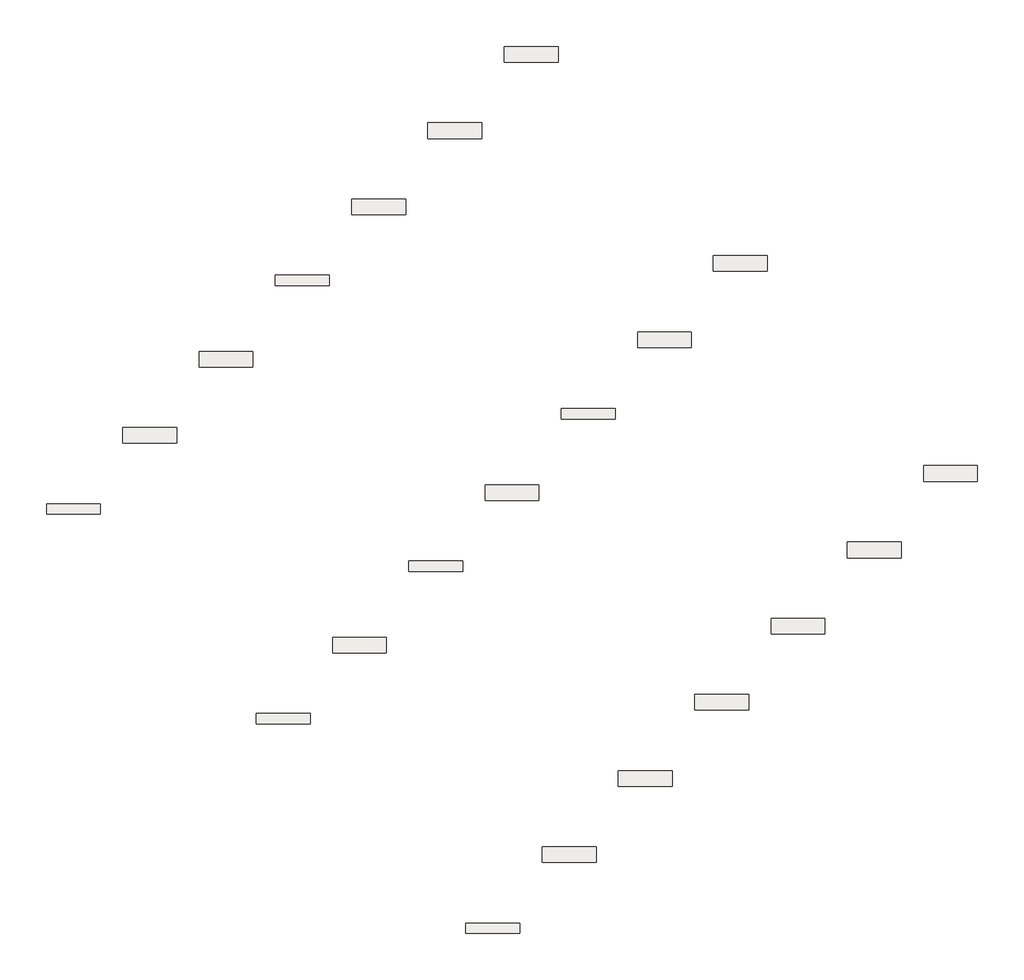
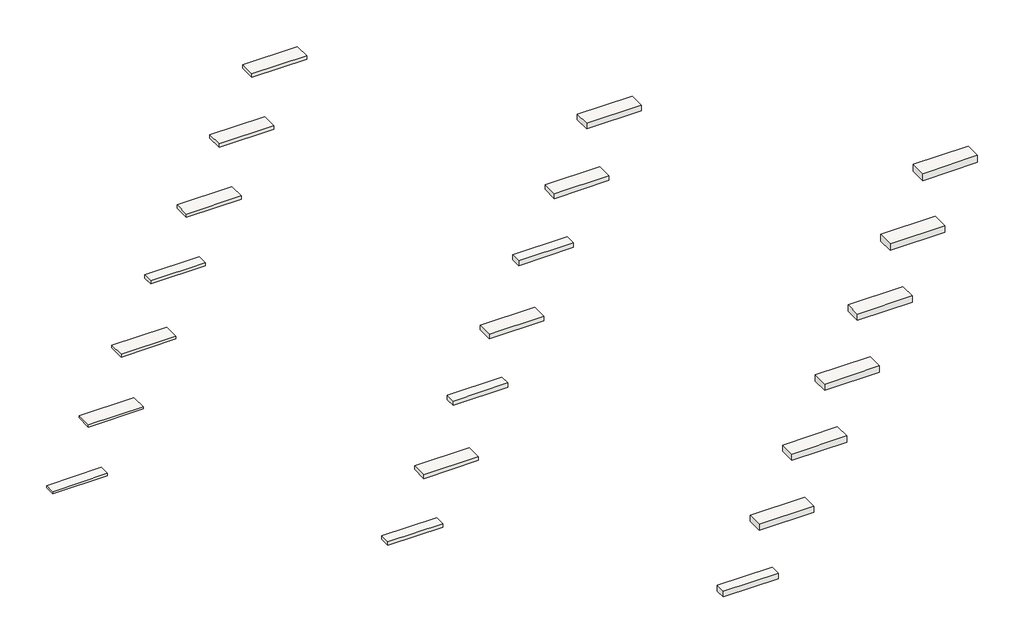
# One storey: 21 roofs.
"""IFC4 building model written with IfcOpenShell, lengths in millimetres."""

from ifc_helpers import new_model, si_unit, frame, origin, place, context, project, spatial, polyline, outline, extrude, element, save

model = new_model("IFC4")

# Units and contexts
model_context = context("Model", 3, world=origin())
ifc_project = project(units=[si_unit("LENGTHUNIT", "METRE", prefix="MILLI")], contexts=[model_context])

# Site, building, storey
site = spatial("IfcSite", under=ifc_project)
building = spatial("IfcBuilding", under=site)
storey = spatial("IfcBuildingStorey", under=building, Name="Lengte", Elevation=2500.0)

# Roofs
placement = place(None, origin())
element("IfcRoof", 1, ObjectType="NLRS_27_RO_Naturoll 035_90x380x7600mm", at=placement, inside=storey, context=model_context, shape_type="SweptSolid", body=[
    extrude(outline(polyline([(-4546.9892792, 4446.9143781), (-2546.9892792, 4446.9143781), (-2546.9892792, 4066.9143781), (-4546.9892792, 4066.9143781), (-4546.9892792, 4446.9143781)])), frame((0.0, 0.0, 2500.0), z_axis=(0.0, 0.0, 1.0), x_axis=(1.0, 0.0, 0.0)), (0.0, 0.0, 1.0), 90.0),
])
element("IfcRoof", 2, ObjectType="NLRS_27_RO_Naturoll 035_90x580x7600mm", at=placement, inside=storey, context=model_context, shape_type="SweptSolid", body=[
    extrude(outline(polyline([(-1718.5621545, 7275.3415029), (281.4378455, 7275.3415029), (281.4378455, 6695.3415029), (-1718.5621545, 6695.3415029), (-1718.5621545, 7275.3415029)])), frame((0.0, 0.0, 2500.0), z_axis=(0.0, 0.0, 1.0), x_axis=(1.0, 0.0, 0.0)), (0.0, 0.0, 1.0), 90.0),
])
element("IfcRoof", 3, ObjectType="NLRS_27_RO_Naturoll 035_100x580x7400mm", at=placement, inside=storey, context=model_context, shape_type="SweptSolid", body=[
    extrude(outline(polyline([(1109.8649703, 10103.7686276), (3109.8649703, 10103.7686276), (3109.8649703, 9523.7686276), (1109.8649703, 9523.7686276), (1109.8649703, 10103.7686276)])), frame((0.0, 0.0, 2500.0), z_axis=(0.0, 0.0, 1.0), x_axis=(1.0, 0.0, 0.0)), (0.0, 0.0, 1.0), 100.0),
])
element("IfcRoof", 4, ObjectType="NLRS_27_RO_Naturoll 035_120x380x6200mm", at=placement, inside=storey, context=model_context, shape_type="SweptSolid", body=[
    extrude(outline(polyline([(3938.292095, 12932.1957524), (5938.292095, 12932.1957524), (5938.292095, 12552.1957524), (3938.292095, 12552.1957524), (3938.292095, 12932.1957524)])), frame((0.0, 0.0, 2500.0), z_axis=(0.0, 0.0, 1.0), x_axis=(1.0, 0.0, 0.0)), (0.0, 0.0, 1.0), 120.0),
])
element("IfcRoof", 5, ObjectType="NLRS_27_RO_Naturoll 035_120x580x6200mm", at=placement, inside=storey, context=model_context, shape_type="SweptSolid", body=[
    extrude(outline(polyline([(6766.7192198, 15760.6228771), (8766.7192198, 15760.6228771), (8766.7192198, 15180.6228771), (6766.7192198, 15180.6228771), (6766.7192198, 15760.6228771)])), frame((0.0, 0.0, 2500.0), z_axis=(0.0, 0.0, 1.0), x_axis=(1.0, 0.0, 0.0)), (0.0, 0.0, 1.0), 120.0),
])
element("IfcRoof", 6, ObjectType="NLRS_27_RO_Naturoll 035_130x590x5500mm", at=placement, inside=storey, context=model_context, shape_type="SweptSolid", body=[
    extrude(outline(polyline([(9595.1463445, 18589.0500019), (11595.1463445, 18589.0500019), (11595.1463445, 17999.0500019), (9595.1463445, 17999.0500019), (9595.1463445, 18589.0500019)])), frame((0.0, 0.0, 2500.0), z_axis=(0.0, 0.0, 1.0), x_axis=(1.0, 0.0, 0.0)), (0.0, 0.0, 1.0), 130.0),
])
element("IfcRoof", 7, ObjectType="NLRS_27_RO_Naturoll 035_140x380x5300mm", at=placement, inside=storey, context=model_context, shape_type="SweptSolid", body=[
    extrude(outline(polyline([(3230.8651346, -3331.5803941), (5230.8651346, -3331.5803941), (5230.8651346, -3711.5803941), (3230.8651346, -3711.5803941), (3230.8651346, -3331.5803941)])), frame((0.0, 0.0, 2500.0), z_axis=(0.0, 0.0, 1.0), x_axis=(1.0, 0.0, 0.0)), (0.0, 0.0, 1.0), 140.0),
])
element("IfcRoof", 8, ObjectType="NLRS_27_RO_Naturoll 035_140x580x5300mm", at=placement, inside=storey, context=model_context, shape_type="SweptSolid", body=[
    extrude(outline(polyline([(6059.2922594, -503.1532694), (8059.2922594, -503.1532694), (8059.2922594, -1083.1532694), (6059.2922594, -1083.1532694), (6059.2922594, -503.1532694)])), frame((0.0, 0.0, 2500.0), z_axis=(0.0, 0.0, 1.0), x_axis=(1.0, 0.0, 0.0)), (0.0, 0.0, 1.0), 140.0),
])
element("IfcRoof", 9, ObjectType="NLRS_27_RO_Naturoll 035_170x380x4350mm", at=placement, inside=storey, context=model_context, shape_type="SweptSolid", body=[
    extrude(outline(polyline([(8887.7193841, 2325.2738554), (10887.7193841, 2325.2738554), (10887.7193841, 1945.2738554), (8887.7193841, 1945.2738554), (8887.7193841, 2325.2738554)])), frame((0.0, 0.0, 2500.0), z_axis=(0.0, 0.0, 1.0), x_axis=(1.0, 0.0, 0.0)), (0.0, 0.0, 1.0), 170.0),
])
element("IfcRoof", 10, ObjectType="NLRS_27_RO_Naturoll 035_170x580x4350mm", at=placement, inside=storey, context=model_context, shape_type="SweptSolid", body=[
    extrude(outline(polyline([(11716.1465089, 5153.7009801), (13716.1465089, 5153.7009801), (13716.1465089, 4573.7009801), (11716.1465089, 4573.7009801), (11716.1465089, 5153.7009801)])), frame((0.0, 0.0, 2500.0), z_axis=(0.0, 0.0, 1.0), x_axis=(1.0, 0.0, 0.0)), (0.0, 0.0, 1.0), 170.0),
])
element("IfcRoof", 11, ObjectType="NLRS_27_RO_Naturoll 035_185x380x4000mm", at=placement, inside=storey, context=model_context, shape_type="SweptSolid", body=[
    extrude(outline(polyline([(14544.5736336, 7982.1281049), (16544.5736336, 7982.1281049), (16544.5736336, 7602.1281049), (14544.5736336, 7602.1281049), (14544.5736336, 7982.1281049)])), frame((0.0, 0.0, 2500.0), z_axis=(0.0, 0.0, 1.0), x_axis=(1.0, 0.0, 0.0)), (0.0, 0.0, 1.0), 185.0),
])
element("IfcRoof", 12, ObjectType="NLRS_27_RO_Naturoll 035_200x580x3700mm", at=placement, inside=storey, context=model_context, shape_type="SweptSolid", body=[
    extrude(outline(polyline([(20189.3006542, 13657.6741056), (22189.3006542, 13657.6741056), (22189.3006542, 13077.6741056), (20189.3006542, 13077.6741056), (20189.3006542, 13657.6741056)])), frame((0.0, 0.0, 2500.0), z_axis=(0.0, 0.0, 1.0), x_axis=(1.0, 0.0, 0.0)), (0.0, 0.0, 1.0), 200.0),
])
element("IfcRoof", 13, ObjectType="NLRS_27_RO_Naturoll 035_220x380x3400mm", at=placement, inside=storey, context=model_context, shape_type="SweptSolid", body=[
    extrude(outline(polyline([(11009.0397277, -11109.7549872), (13009.0397277, -11109.7549872), (13009.0397277, -11489.7549872), (11009.0397277, -11489.7549872), (11009.0397277, -11109.7549872)])), frame((0.0, 0.0, 2500.0), z_axis=(0.0, 0.0, 1.0), x_axis=(1.0, 0.0, 0.0)), (0.0, 0.0, 1.0), 220.0),
])
element("IfcRoof", 14, ObjectType="NLRS_27_RO_Naturoll 035_220x580x3400mm", at=placement, inside=storey, context=model_context, shape_type="SweptSolid", body=[
    extrude(outline(polyline([(13837.4668524, -8281.3278624), (15837.4668524, -8281.3278624), (15837.4668524, -8861.3278624), (13837.4668524, -8861.3278624), (13837.4668524, -8281.3278624)])), frame((0.0, 0.0, 2500.0), z_axis=(0.0, 0.0, 1.0), x_axis=(1.0, 0.0, 0.0)), (0.0, 0.0, 1.0), 220.0),
])
element("IfcRoof", 15, ObjectType="NLRS_27_RO_Naturoll 035_235x580x3100mm", at=placement, inside=storey, context=model_context, shape_type="SweptSolid", body=[
    extrude(outline(polyline([(16665.8939772, -5452.9007377), (18665.8939772, -5452.9007377), (18665.8939772, -6032.9007377), (16665.8939772, -6032.9007377), (16665.8939772, -5452.9007377)])), frame((0.0, 0.0, 2500.0), z_axis=(0.0, 0.0, 1.0), x_axis=(1.0, 0.0, 0.0)), (0.0, 0.0, 1.0), 235.0),
])
element("IfcRoof", 16, ObjectType="NLRS_27_RO_Naturoll 035_240x580x3100mm", at=placement, inside=storey, context=model_context, shape_type="SweptSolid", body=[
    extrude(outline(polyline([(19494.3211019, -2624.4736129), (21494.3211019, -2624.4736129), (21494.3211019, -3204.4736129), (19494.3211019, -3204.4736129), (19494.3211019, -2624.4736129)])), frame((0.0, 0.0, 2500.0), z_axis=(0.0, 0.0, 1.0), x_axis=(1.0, 0.0, 0.0)), (0.0, 0.0, 1.0), 240.0),
])
element("IfcRoof", 17, ObjectType="NLRS_27_RO_Naturoll 035_270x590x2600mm", at=placement, inside=storey, context=model_context, shape_type="SweptSolid", body=[
    extrude(outline(polyline([(27979.6024762, 5860.8077613), (29979.6024762, 5860.8077613), (29979.6024762, 5270.8077613), (27979.6024762, 5270.8077613), (27979.6024762, 5860.8077613)])), frame((0.0, 0.0, 2500.0), z_axis=(0.0, 0.0, 1.0), x_axis=(1.0, 0.0, 0.0)), (0.0, 0.0, 1.0), 270.0),
])
element("IfcRoof", 18, ObjectType="NLRS_27_RO_Naturoll 035_185x580x4000mm", at=placement, inside=storey, context=model_context, shape_type="SweptSolid", body=[
    extrude(outline(polyline([(17373.0007584, 10825.5552296), (19373.0007584, 10825.5552296), (19373.0007584, 10245.5552296), (17373.0007584, 10245.5552296), (17373.0007584, 10825.5552296)])), frame((0.0, 0.0, 2500.0), z_axis=(0.0, 0.0, 1.0), x_axis=(1.0, 0.0, 0.0)), (0.0, 0.0, 1.0), 185.0),
])
element("IfcRoof", 19, ObjectType="NLRS_27_RO_Naturoll 035_135x590x5300mm", at=placement, inside=storey, context=model_context, shape_type="SweptSolid", body=[
    extrude(outline(polyline([(12423.5734693, 21417.4771266), (14423.5734693, 21417.4771266), (14423.5734693, 20827.4771266), (12423.5734693, 20827.4771266), (12423.5734693, 21417.4771266)])), frame((0.0, 0.0, 2500.0), z_axis=(0.0, 0.0, 1.0), x_axis=(1.0, 0.0, 0.0)), (0.0, 0.0, 1.0), 135.0),
])
element("IfcRoof", 20, ObjectType="NLRS_27_RO_Naturoll 035_260x590x2700mm", at=placement, inside=storey, context=model_context, shape_type="SweptSolid", body=[
    extrude(outline(polyline([(25151.1753514, 3032.3806366), (27151.1753514, 3032.3806366), (27151.1753514, 2442.3806366), (25151.1753514, 2442.3806366), (25151.1753514, 3032.3806366)])), frame((0.0, 0.0, 2500.0), z_axis=(0.0, 0.0, 1.0), x_axis=(1.0, 0.0, 0.0)), (0.0, 0.0, 1.0), 260.0),
])
element("IfcRoof", 21, ObjectType="NLRS_27_RO_Naturoll 035_245x590x2600mm", at=placement, inside=storey, context=model_context, shape_type="SweptSolid", body=[
    extrude(outline(polyline([(22322.7482267, 203.9535118), (24322.7482267, 203.9535118), (24322.7482267, -386.0464882), (22322.7482267, -386.0464882), (22322.7482267, 203.9535118)])), frame((0.0, 0.0, 2500.0), z_axis=(0.0, 0.0, 1.0), x_axis=(1.0, 0.0, 0.0)), (0.0, 0.0, 1.0), 245.0),
])

save(model, "model.ifc")
